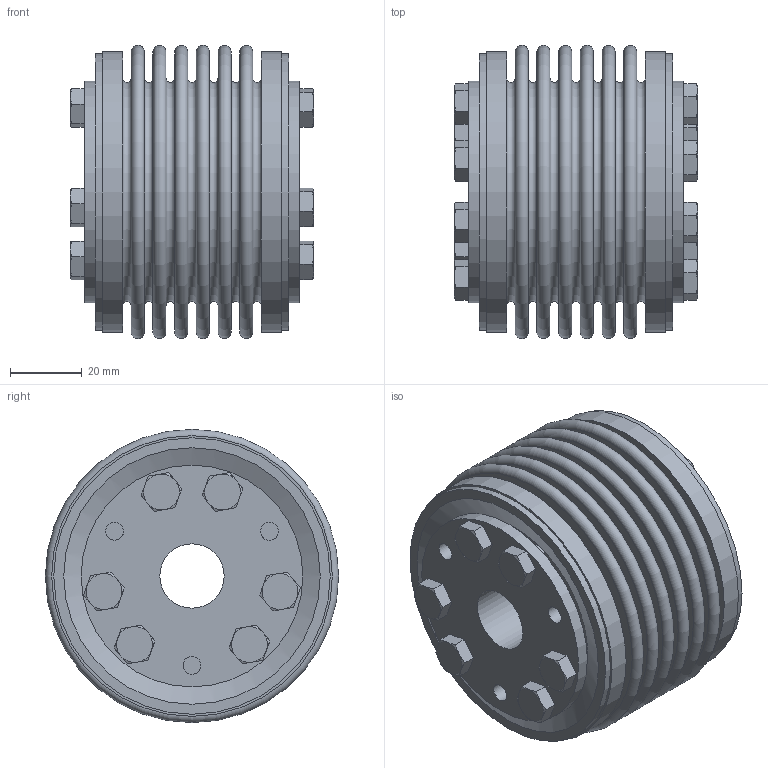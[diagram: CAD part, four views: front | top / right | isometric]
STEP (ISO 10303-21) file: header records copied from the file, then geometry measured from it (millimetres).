
FILE_DESCRIPTION( ( 'Unknown' ), '1' );
FILE_NAME( 'F:/JAKOB-STEP+IGES-Dateien/STEP-Dateien/KSD/KSD 170.stp', 'Unknown', ( 'Unknown' ), ( 'Unknown' ), 'PSStep 10.1', 'Unknown', ' ' );
FILE_SCHEMA( ( 'AUTOMOTIVE_DESIGN { 1 0 10303 214 1 1 1 1 }' ) );
Length unit declared in the file: millimetre
Products named in the file (1): KT100088-oa12
Bounding box: 68 x 82 x 82 mm (x, y, z)
Volume: 177979.1 mm3; surface area: 115626.2 mm2
Topology: 1 solids, 1 shells, 348 faces, 814 edges, 524 vertices
Faces by surface type: plane 172, cone 80, cylinder 66, torus 30
Full cylindrical faces by diameter (mm): 5 x18, 6 x12, 6.3 x12, 8.7 x12, 18 x2, 41.4 x2, 58 x2, 62 x2, 77.3 x2, 78.5 x2
Entity records: 12152 total; most frequent: CARTESIAN_POINT 2261, DIRECTION 1482, ORIENTED_EDGE 1276, AXIS2_PLACEMENT_3D 669, EDGE_CURVE 638, EDGE_LOOP 546, VERTEX_POINT 452, FACE_OUTER_BOUND 444
